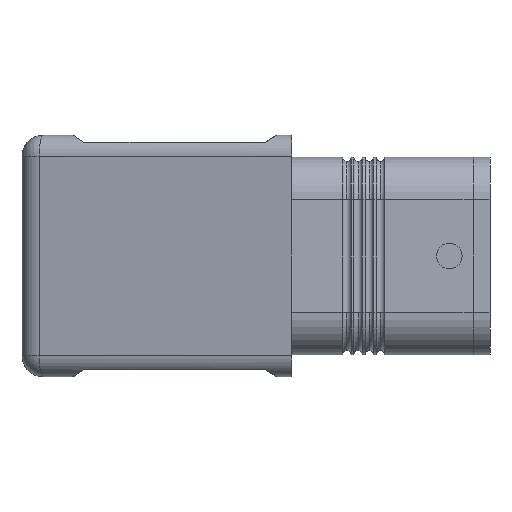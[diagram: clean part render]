
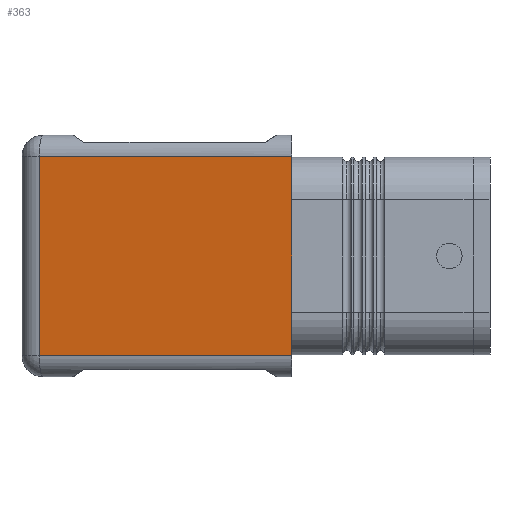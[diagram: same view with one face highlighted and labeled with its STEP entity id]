
A CAD part, left-side view. The second image highlights one B-rep face of the part: STEP entity #363.
In plain terms, the highlighted planar face has unit normal (-0.983, 0.182, 0).
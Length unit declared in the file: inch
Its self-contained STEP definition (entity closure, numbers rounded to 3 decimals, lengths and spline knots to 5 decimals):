
#174 = VERTEX_POINT ( 'NONE', #2380 ) ;
#251 = VERTEX_POINT ( 'NONE', #2574 ) ;
#319 = VERTEX_POINT ( 'NONE', #2665 ) ;
#321 = EDGE_CURVE ( 'NONE', #251, #319, #2664, .T. ) ;
#347 = EDGE_CURVE ( 'NONE', #378, #369, #2726, .T. ) ;
#348 = ORIENTED_EDGE ( 'NONE', *, *, #377, .T. ) ;
#363 = ADVANCED_FACE ( 'NONE', ( #2706 ), #2705, .F. ) ;
#364 = EDGE_LOOP ( 'NONE', ( #365, #366, #367, #368, #427, #348 ) ) ;
#365 = ORIENTED_EDGE ( 'NONE', *, *, #6053, .T. ) ;
#366 = ORIENTED_EDGE ( 'NONE', *, *, #6060, .T. ) ;
#367 = ORIENTED_EDGE ( 'NONE', *, *, #321, .T. ) ;
#368 = ORIENTED_EDGE ( 'NONE', *, *, #426, .T. ) ;
#369 = VERTEX_POINT ( 'NONE', #2761 ) ;
#377 = EDGE_CURVE ( 'NONE', #378, #6049, #2758, .T. ) ;
#378 = VERTEX_POINT ( 'NONE', #2750 ) ;
#426 = EDGE_CURVE ( 'NONE', #319, #369, #2802, .T. ) ;
#427 = ORIENTED_EDGE ( 'NONE', *, *, #347, .F. ) ;
#2380 = CARTESIAN_POINT ( 'NONE',  ( -1.29646, 2.5578, 0.5875 ) ) ;
#2574 = CARTESIAN_POINT ( 'NONE',  ( -1.29646, 2.5578, -0.5875 ) ) ;
#2656 = DIRECTION ( 'NONE',  ( -0.182, -0.983, 0. ) ) ;
#2657 = VECTOR ( 'NONE', #2656, 39.37008 ) ;
#2658 = CARTESIAN_POINT ( 'NONE',  ( -1.22798, 2.92691, -0.5875 ) ) ;
#2664 = LINE ( 'NONE', #2658, #2657 ) ;
#2665 = CARTESIAN_POINT ( 'NONE',  ( -1.5725, 1.07, -0.5875 ) ) ;
#2703 = CARTESIAN_POINT ( 'NONE',  ( -1.22798, 2.92691, -0.7125 ) ) ;
#2704 = AXIS2_PLACEMENT_3D ( 'NONE', #2703, #2763, #2762 ) ;
#2705 = PLANE ( 'NONE',  #2704 ) ;
#2706 = FACE_OUTER_BOUND ( 'NONE', #364, .T. ) ;
#2723 = DIRECTION ( 'NONE',  ( 0., 0., -1. ) ) ;
#2724 = VECTOR ( 'NONE', #2723, 39.37008 ) ;
#2725 = CARTESIAN_POINT ( 'NONE',  ( -1.5725, 1.07, -0.3325 ) ) ;
#2726 = LINE ( 'NONE', #2725, #2724 ) ;
#2750 = CARTESIAN_POINT ( 'NONE',  ( -1.5725, 1.07, 0.3325 ) ) ;
#2751 = DIRECTION ( 'NONE',  ( 0., 0., 1. ) ) ;
#2752 = VECTOR ( 'NONE', #2751, 39.37008 ) ;
#2753 = CARTESIAN_POINT ( 'NONE',  ( -1.5725, 1.07, -0.7125 ) ) ;
#2758 = LINE ( 'NONE', #2753, #2752 ) ;
#2761 = CARTESIAN_POINT ( 'NONE',  ( -1.5725, 1.07, -0.3325 ) ) ;
#2762 = DIRECTION ( 'NONE',  ( 0.182, 0.983, 0. ) ) ;
#2763 = DIRECTION ( 'NONE',  ( 0.983, -0.182, 0. ) ) ;
#2799 = DIRECTION ( 'NONE',  ( 0., 0., 1. ) ) ;
#2800 = VECTOR ( 'NONE', #2799, 39.37008 ) ;
#2801 = CARTESIAN_POINT ( 'NONE',  ( -1.5725, 1.07, -0.7125 ) ) ;
#2802 = LINE ( 'NONE', #2801, #2800 ) ;
#6049 = VERTEX_POINT ( 'NONE', #6142 ) ;
#6053 = EDGE_CURVE ( 'NONE', #6049, #174, #6188, .T. ) ;
#6060 = EDGE_CURVE ( 'NONE', #174, #251, #6184, .T. ) ;
#6142 = CARTESIAN_POINT ( 'NONE',  ( -1.5725, 1.07, 0.5875 ) ) ;
#6181 = DIRECTION ( 'NONE',  ( 0., 0., -1. ) ) ;
#6182 = VECTOR ( 'NONE', #6181, 39.37008 ) ;
#6183 = CARTESIAN_POINT ( 'NONE',  ( -1.29646, 2.5578, -0.5875 ) ) ;
#6184 = LINE ( 'NONE', #6183, #6182 ) ;
#6185 = DIRECTION ( 'NONE',  ( 0.182, 0.983, 0. ) ) ;
#6186 = VECTOR ( 'NONE', #6185, 39.37008 ) ;
#6187 = CARTESIAN_POINT ( 'NONE',  ( -1.22798, 2.92691, 0.5875 ) ) ;
#6188 = LINE ( 'NONE', #6187, #6186 ) ;
